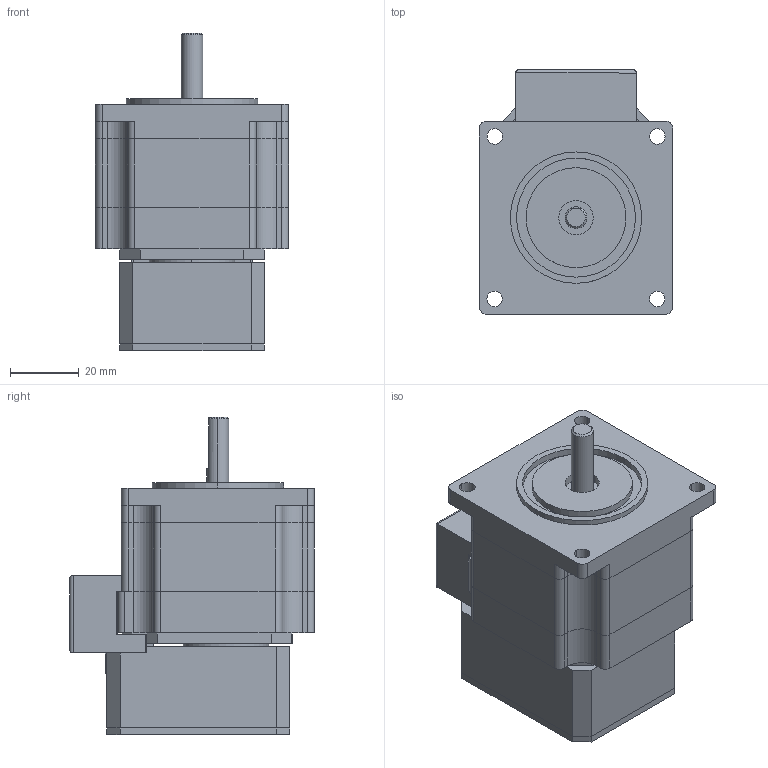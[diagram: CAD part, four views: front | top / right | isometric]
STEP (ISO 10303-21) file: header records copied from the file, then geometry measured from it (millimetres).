
FILE_DESCRIPTION (( 'STEP AP203' ), '1' );
FILE_NAME ('CM1-X-23S30.STEP', '2010-01-05T16:53:03', ( 'render' ), ( '' ), 'SwSTEP 2.0', 'SolidWorks 2009', '' );
FILE_SCHEMA (( 'CONFIG_CONTROL_DESIGN' ));
Length unit declared in the file: millimetre
Products named in the file (11): CM1-X-23S30; cm1 driver casing; 23 flange; Driver Card; CM1 driver cover; 23 wire cover; 23X Stepper_23S; CM-23 stepper face; CM-23X stepper body_23S; CM-23 stepper back; 23 shaft
Assembly tree (10 placements, depth 3):
  CM1-X-23S30
    23 flange
    23X Stepper_23S
      23 shaft
      CM-23 stepper back
      CM-23X stepper body_23S
      CM-23 stepper face
    cm1 driver casing
    CM1 driver cover
    23 wire cover
    Driver Card
Bounding box: 56.02 x 71.02 x 92.15 mm (x, y, z)
Volume: 153494.5 mm3; surface area: 58853.7 mm2
Topology: 10 solids, 10 shells, 762 faces, 2012 edges, 1298 vertices
Faces by surface type: plane 577, cylinder 175, cone 10
Entity records: 24486 total; most frequent: CARTESIAN_POINT 4111, ORIENTED_EDGE 4024, DIRECTION 3919, EDGE_CURVE 2012, LINE 1647, VECTOR 1647, VERTEX_POINT 1298, AXIS2_PLACEMENT_3D 1136
